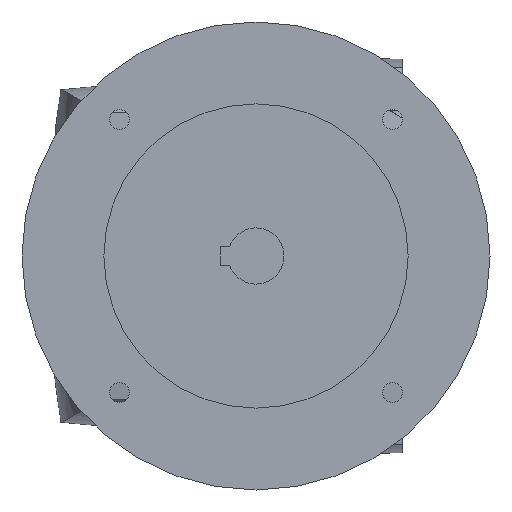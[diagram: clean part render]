
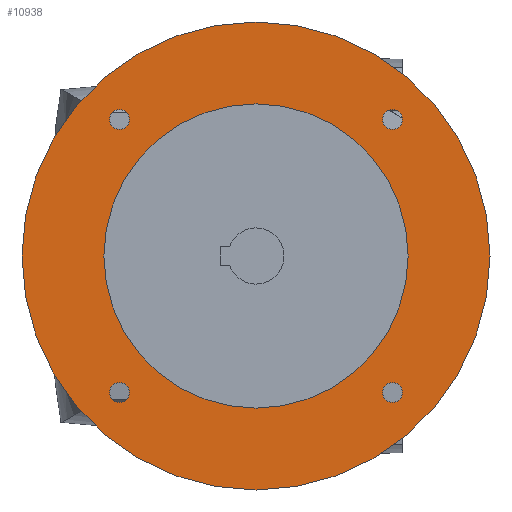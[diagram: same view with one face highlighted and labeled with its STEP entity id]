
A CAD part, left-side view. The second image highlights one B-rep face of the part: STEP entity #10938.
In plain terms, the highlighted planar face has unit normal (-1, 0, 0).
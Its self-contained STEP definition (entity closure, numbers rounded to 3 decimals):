
#2759=CARTESIAN_POINT('',(-124.5,137.336,-58.336));
#2760=DIRECTION('',(1.,0.,0.));
#2761=DIRECTION('',(0.,-1.,0.));
#2762=AXIS2_PLACEMENT_3D('',#2759,#2760,#2761);
#2764=CARTESIAN_POINT('',(-124.5,137.336,-58.336));
#2765=DIRECTION('',(1.,0.,0.));
#2766=DIRECTION('',(0.,1.,0.));
#2767=AXIS2_PLACEMENT_3D('',#2764,#2765,#2766);
#2769=CARTESIAN_POINT('',(-124.5,20.664,-58.336));
#2770=DIRECTION('',(1.,0.,0.));
#2771=DIRECTION('',(0.,-1.,0.));
#2772=AXIS2_PLACEMENT_3D('',#2769,#2770,#2771);
#2774=CARTESIAN_POINT('',(-124.5,20.664,-58.336));
#2775=DIRECTION('',(1.,0.,0.));
#2776=DIRECTION('',(0.,1.,0.));
#2777=AXIS2_PLACEMENT_3D('',#2774,#2775,#2776);
#2779=CARTESIAN_POINT('',(-124.5,20.664,58.336));
#2780=DIRECTION('',(1.,0.,0.));
#2781=DIRECTION('',(0.,-1.,0.));
#2782=AXIS2_PLACEMENT_3D('',#2779,#2780,#2781);
#2784=CARTESIAN_POINT('',(-124.5,20.664,58.336));
#2785=DIRECTION('',(1.,0.,0.));
#2786=DIRECTION('',(0.,1.,0.));
#2787=AXIS2_PLACEMENT_3D('',#2784,#2785,#2786);
#2789=CARTESIAN_POINT('',(-124.5,137.336,58.336));
#2790=DIRECTION('',(1.,0.,0.));
#2791=DIRECTION('',(0.,-1.,0.));
#2792=AXIS2_PLACEMENT_3D('',#2789,#2790,#2791);
#2794=CARTESIAN_POINT('',(-124.5,137.336,58.336));
#2795=DIRECTION('',(1.,0.,0.));
#2796=DIRECTION('',(0.,1.,0.));
#2797=AXIS2_PLACEMENT_3D('',#2794,#2795,#2796);
#2799=CARTESIAN_POINT('',(-124.5,79.,0.));
#2800=DIRECTION('',(1.,0.,0.));
#2801=DIRECTION('',(0.,-1.,0.));
#2802=AXIS2_PLACEMENT_3D('',#2799,#2800,#2801);
#2804=CARTESIAN_POINT('',(-124.5,79.,0.));
#2805=DIRECTION('',(1.,0.,0.));
#2806=DIRECTION('',(0.,1.,0.));
#2807=AXIS2_PLACEMENT_3D('',#2804,#2805,#2806);
#2809=CARTESIAN_POINT('',(-124.5,79.,0.));
#2810=DIRECTION('',(-1.,0.,0.));
#2811=DIRECTION('',(0.,-1.,0.));
#2812=AXIS2_PLACEMENT_3D('',#2809,#2810,#2811);
#2814=CARTESIAN_POINT('',(-124.5,79.,0.));
#2815=DIRECTION('',(-1.,0.,0.));
#2816=DIRECTION('',(0.,1.,0.));
#2817=AXIS2_PLACEMENT_3D('',#2814,#2815,#2816);
#6759=CARTESIAN_POINT('',(-124.5,179.,0.));
#6760=VERTEX_POINT('',#6759);
#6761=CARTESIAN_POINT('',(-124.5,-21.,0.));
#6762=VERTEX_POINT('',#6761);
#6763=CARTESIAN_POINT('',(-124.5,14.,0.));
#6764=CARTESIAN_POINT('',(-124.5,144.,0.));
#6765=VERTEX_POINT('',#6763);
#6766=VERTEX_POINT('',#6764);
#7225=CARTESIAN_POINT('',(-124.5,133.086,58.336));
#7226=CARTESIAN_POINT('',(-124.5,141.586,58.336));
#7227=VERTEX_POINT('',#7225);
#7228=VERTEX_POINT('',#7226);
#7229=CARTESIAN_POINT('',(-124.5,16.414,58.336));
#7230=CARTESIAN_POINT('',(-124.5,24.914,58.336));
#7231=VERTEX_POINT('',#7229);
#7232=VERTEX_POINT('',#7230);
#7233=CARTESIAN_POINT('',(-124.5,16.414,-58.336));
#7234=CARTESIAN_POINT('',(-124.5,24.914,-58.336));
#7235=VERTEX_POINT('',#7233);
#7236=VERTEX_POINT('',#7234);
#7237=CARTESIAN_POINT('',(-124.5,133.086,-58.336));
#7238=CARTESIAN_POINT('',(-124.5,141.586,-58.336));
#7239=VERTEX_POINT('',#7237);
#7240=VERTEX_POINT('',#7238);
#10898=CARTESIAN_POINT('',(-124.5,79.,0.));
#10899=DIRECTION('',(1.,0.,0.));
#10900=DIRECTION('',(0.,-1.,0.));
#10901=AXIS2_PLACEMENT_3D('',#10898,#10899,#10900);
#10902=PLANE('',#10901);
#10904=ORIENTED_EDGE('',*,*,#10903,.T.);
#10906=ORIENTED_EDGE('',*,*,#10905,.T.);
#10907=EDGE_LOOP('',(#10904,#10906));
#10908=FACE_OUTER_BOUND('',#10907,.F.);
#10909=ORIENTED_EDGE('',*,*,#10888,.F.);
#10911=ORIENTED_EDGE('',*,*,#10910,.F.);
#10912=EDGE_LOOP('',(#10909,#10911));
#10913=FACE_BOUND('',#10912,.F.);
#10915=ORIENTED_EDGE('',*,*,#10914,.F.);
#10917=ORIENTED_EDGE('',*,*,#10916,.F.);
#10918=EDGE_LOOP('',(#10915,#10917));
#10919=FACE_BOUND('',#10918,.F.);
#10921=ORIENTED_EDGE('',*,*,#10920,.F.);
#10923=ORIENTED_EDGE('',*,*,#10922,.F.);
#10924=EDGE_LOOP('',(#10921,#10923));
#10925=FACE_BOUND('',#10924,.F.);
#10927=ORIENTED_EDGE('',*,*,#10926,.F.);
#10929=ORIENTED_EDGE('',*,*,#10928,.F.);
#10930=EDGE_LOOP('',(#10927,#10929));
#10931=FACE_BOUND('',#10930,.F.);
#10933=ORIENTED_EDGE('',*,*,#10932,.T.);
#10935=ORIENTED_EDGE('',*,*,#10934,.T.);
#10936=EDGE_LOOP('',(#10933,#10935));
#10937=FACE_BOUND('',#10936,.F.);
#10938=ADVANCED_FACE('',(#10908,#10913,#10919,#10925,#10931,#10937),#10902,.F.);
#2763=CIRCLE('',#2762,4.25);
#2768=CIRCLE('',#2767,4.25);
#2773=CIRCLE('',#2772,4.25);
#2778=CIRCLE('',#2777,4.25);
#2783=CIRCLE('',#2782,4.25);
#2788=CIRCLE('',#2787,4.25);
#2793=CIRCLE('',#2792,4.25);
#2798=CIRCLE('',#2797,4.25);
#2803=CIRCLE('',#2802,100.);
#2808=CIRCLE('',#2807,100.);
#2813=CIRCLE('',#2812,65.);
#2818=CIRCLE('',#2817,65.);
#10888=EDGE_CURVE('',#7239,#7240,#2763,.T.);
#10903=EDGE_CURVE('',#6762,#6760,#2803,.T.);
#10905=EDGE_CURVE('',#6760,#6762,#2808,.T.);
#10910=EDGE_CURVE('',#7240,#7239,#2768,.T.);
#10914=EDGE_CURVE('',#7235,#7236,#2773,.T.);
#10916=EDGE_CURVE('',#7236,#7235,#2778,.T.);
#10920=EDGE_CURVE('',#7231,#7232,#2783,.T.);
#10922=EDGE_CURVE('',#7232,#7231,#2788,.T.);
#10926=EDGE_CURVE('',#7227,#7228,#2793,.T.);
#10928=EDGE_CURVE('',#7228,#7227,#2798,.T.);
#10932=EDGE_CURVE('',#6765,#6766,#2813,.T.);
#10934=EDGE_CURVE('',#6766,#6765,#2818,.T.);
